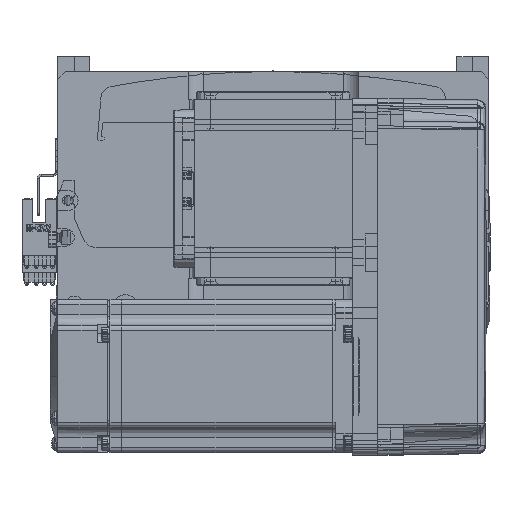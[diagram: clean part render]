
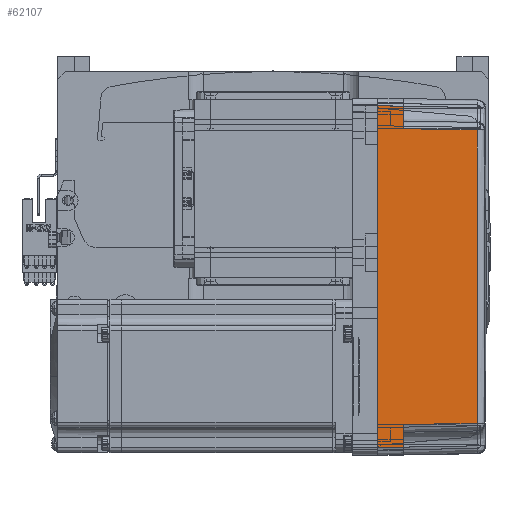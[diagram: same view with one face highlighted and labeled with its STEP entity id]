
A CAD part, top view. The second image highlights one B-rep face of the part: STEP entity #62107.
In plain terms, the highlighted planar face has unit normal (0.018, 0, 1) as drawn and (0, 1, 0.017) by its records, which use the part's own axes.
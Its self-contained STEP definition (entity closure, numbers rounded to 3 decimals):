
#266 = VECTOR ( 'NONE', #32005, 1000. ) ;
#2606 = ORIENTED_EDGE ( 'NONE', *, *, #16196, .F. ) ;
#2609 = CARTESIAN_POINT ( 'NONE',  ( -19.165, 35.316, 39.181 ) ) ;
#2710 = EDGE_CURVE ( 'NONE', #15770, #25952, #25045, .T. ) ;
#3124 = VERTEX_POINT ( 'NONE', #61522 ) ;
#5081 = DIRECTION ( 'NONE',  ( 1., 0., 0. ) ) ;
#9993 = LINE ( 'NONE', #35926, #38907 ) ;
#10629 = VECTOR ( 'NONE', #44605, 1000. ) ;
#11484 = CARTESIAN_POINT ( 'NONE',  ( 58., 35.825, 10. ) ) ;
#11866 = DIRECTION ( 'NONE',  ( 0.017, -0.017, 1. ) ) ;
#11908 = CARTESIAN_POINT ( 'NONE',  ( 70., 35.825, 10. ) ) ;
#13002 = LINE ( 'NONE', #37033, #266 ) ;
#14488 = EDGE_CURVE ( 'NONE', #25952, #24683, #15641, .T. ) ;
#15641 = B_SPLINE_CURVE_WITH_KNOTS ( 'NONE', 3,
 ( #72034, #2609, #19860, #66010 ),
 .UNSPECIFIED., .F., .F.,
 ( 4, 4 ),
 ( 0., 1. ),
 .UNSPECIFIED. ) ;
#15770 = VERTEX_POINT ( 'NONE', #34751 ) ;
#16196 = EDGE_CURVE ( 'NONE', #63143, #35337, #17457, .T. ) ;
#16615 = CARTESIAN_POINT ( 'NONE',  ( -67., 36., 0. ) ) ;
#17457 = LINE ( 'NONE', #34124, #46301 ) ;
#17925 = DIRECTION ( 'NONE',  ( 0., -0.017, 1. ) ) ;
#18176 = LINE ( 'NONE', #50320, #53295 ) ;
#18846 = ORIENTED_EDGE ( 'NONE', *, *, #2710, .T. ) ;
#19860 = CARTESIAN_POINT ( 'NONE',  ( 19.165, 35.316, 39.181 ) ) ;
#20559 = ORIENTED_EDGE ( 'NONE', *, *, #31756, .T. ) ;
#24683 = VERTEX_POINT ( 'NONE', #28580 ) ;
#25045 = LINE ( 'NONE', #46665, #38553 ) ;
#25952 = VERTEX_POINT ( 'NONE', #51736 ) ;
#26913 = LINE ( 'NONE', #16615, #10629 ) ;
#26940 = EDGE_CURVE ( 'NONE', #35337, #32523, #18176, .T. ) ;
#28531 = CARTESIAN_POINT ( 'NONE',  ( 70., 36., 0. ) ) ;
#28580 = CARTESIAN_POINT ( 'NONE',  ( 57.495, 35.32, 38.985 ) ) ;
#30308 = AXIS2_PLACEMENT_3D ( 'NONE', #28531, #46614, #17925 ) ;
#31756 = EDGE_CURVE ( 'NONE', #63143, #3124, #26913, .T. ) ;
#32005 = DIRECTION ( 'NONE',  ( 1., 0., 0. ) ) ;
#32523 = VERTEX_POINT ( 'NONE', #41637 ) ;
#32983 = VECTOR ( 'NONE', #46966, 1000. ) ;
#34004 = ORIENTED_EDGE ( 'NONE', *, *, #14488, .T. ) ;
#34124 = CARTESIAN_POINT ( 'NONE',  ( 0., 36., 0. ) ) ;
#34751 = CARTESIAN_POINT ( 'NONE',  ( -58., 35.825, 10. ) ) ;
#35337 = VERTEX_POINT ( 'NONE', #63933 ) ;
#35926 = CARTESIAN_POINT ( 'NONE',  ( 57.495, 35.32, 38.985 ) ) ;
#37033 = CARTESIAN_POINT ( 'NONE',  ( 70., 35.825, 10. ) ) ;
#38553 = VECTOR ( 'NONE', #11866, 1000. ) ;
#38798 = EDGE_CURVE ( 'NONE', #24683, #66104, #9993, .T. ) ;
#38907 = VECTOR ( 'NONE', #47248, 1000. ) ;
#40571 = EDGE_LOOP ( 'NONE', ( #20559, #41443, #18846, #34004, #43518, #70733, #49886, #2606 ) ) ;
#41443 = ORIENTED_EDGE ( 'NONE', *, *, #60667, .T. ) ;
#41637 = CARTESIAN_POINT ( 'NONE',  ( 66.826, 35.825, 10. ) ) ;
#43518 = ORIENTED_EDGE ( 'NONE', *, *, #38798, .T. ) ;
#44605 = DIRECTION ( 'NONE',  ( 0.017, -0.017, 1. ) ) ;
#45240 = EDGE_CURVE ( 'NONE', #66104, #32523, #48306, .T. ) ;
#45265 = DIRECTION ( 'NONE',  ( -0.017, -0.017, 1. ) ) ;
#46301 = VECTOR ( 'NONE', #5081, 1000. ) ;
#46614 = DIRECTION ( 'NONE',  ( 0., 1., 0.017 ) ) ;
#46665 = CARTESIAN_POINT ( 'NONE',  ( -58., 35.825, 10. ) ) ;
#46943 = CARTESIAN_POINT ( 'NONE',  ( -67., 36., 0. ) ) ;
#46966 = DIRECTION ( 'NONE',  ( 1., 0., 0. ) ) ;
#47248 = DIRECTION ( 'NONE',  ( 0.017, 0.017, -1. ) ) ;
#48306 = LINE ( 'NONE', #11908, #32983 ) ;
#49886 = ORIENTED_EDGE ( 'NONE', *, *, #26940, .F. ) ;
#50320 = CARTESIAN_POINT ( 'NONE',  ( 67.001, 36.001, -0.052 ) ) ;
#51736 = CARTESIAN_POINT ( 'NONE',  ( -57.495, 35.32, 38.985 ) ) ;
#53295 = VECTOR ( 'NONE', #45265, 1000. ) ;
#60667 = EDGE_CURVE ( 'NONE', #3124, #15770, #13002, .T. ) ;
#61522 = CARTESIAN_POINT ( 'NONE',  ( -66.826, 35.825, 10. ) ) ;
#62107 = ADVANCED_FACE ( 'NONE', ( #74430 ), #63825, .T. ) ;
#63143 = VERTEX_POINT ( 'NONE', #46943 ) ;
#63825 = PLANE ( 'NONE',  #30308 ) ;
#63933 = CARTESIAN_POINT ( 'NONE',  ( 67., 36., 0. ) ) ;
#66010 = CARTESIAN_POINT ( 'NONE',  ( 57.495, 35.32, 38.985 ) ) ;
#66104 = VERTEX_POINT ( 'NONE', #11484 ) ;
#70733 = ORIENTED_EDGE ( 'NONE', *, *, #45240, .T. ) ;
#72034 = CARTESIAN_POINT ( 'NONE',  ( -57.495, 35.32, 38.985 ) ) ;
#74430 = FACE_OUTER_BOUND ( 'NONE', #40571, .T. ) ;
